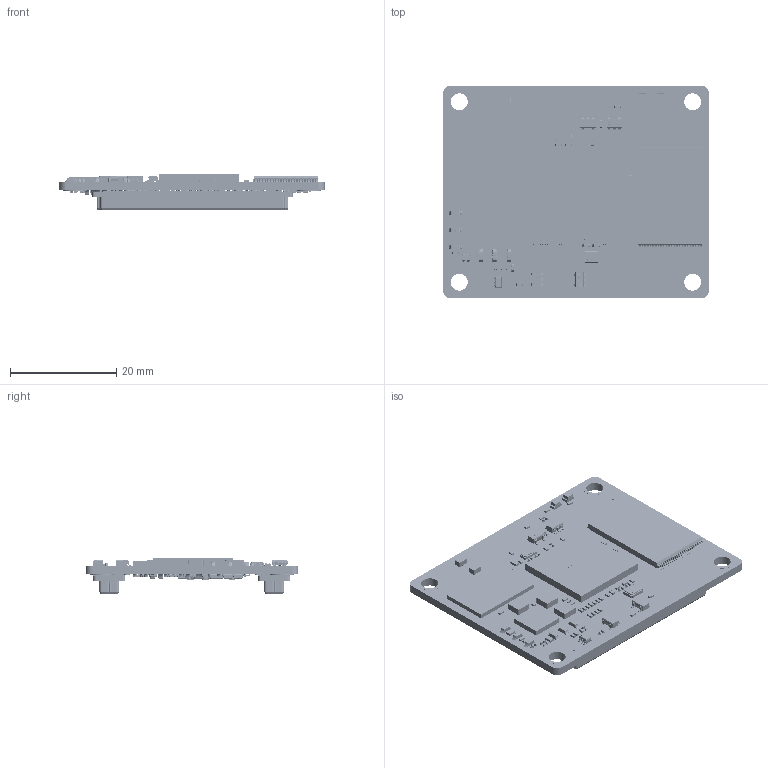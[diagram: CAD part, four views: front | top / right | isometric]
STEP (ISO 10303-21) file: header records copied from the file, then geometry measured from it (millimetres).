
FILE_DESCRIPTION((''),'2;1');
FILE_NAME('MYC-C335X-GW_V12_0920_ASM','2023-10-08T14:36:24',('89233'),(''),'CREO PARAMETRIC BY PTC INC, 2023073','CREO PARAMETRIC BY PTC INC, 2023073','');
FILE_SCHEMA(('AUTOMOTIVE_DESIGN { 1 0 10303 214 1 1 1 1 }'));
Products named in the file (132): MYC-C335X-GW-109805; MYC-C335X-GW-117285_ASM; HOLE3_2; HOLE3_2P_ASM; BGA153-1; BGA153_ASM; PIN1-106950; PIN2-106951; CHIP-106952; FB0805-109808_ASM; FB0805-117288_ASM; R0603-109809; R0603-117289_ASM; L3X3-109810; L3X3-117290_ASM; NONE-106955; PART6_ASSEM3-1-SOLID2; USER_LIBRARY-0603_CAP-1-SOLID1; CUT-EXTRUDE1; WRAP1; C0603-109811_ASM; C0603-117291_ASM; USER_LIBRARY-0402_CAP-1-SOLID3; _1; USER_LIBRARY-0402_CAP-1-SOLID1; NONE-106963; C0402-109812_ASM; C0402-117292_ASM; R0402-109813; R0402-117293_ASM; USER_LIBRARY-96-FBGA__14X9_; FBGA96_ASM; 61082-081402LF-1; CONN-61082-081400LF_ASM; BGA324-109816; BGA324-117296_ASM; TEST0_8SMD; TEST0_8-SMD_ASM; FRAME_12_1; FRAME_12_2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
Assembly tree (379 placements, depth 7):
  MYC-C335X-GW_V12_0920_ASM
    MYC-C335X-GW_V12_0920_1_ASM
      COMPONENTS_ASM
        MYC-C335X-GW-117285_ASM
          MYC-C335X-GW-109805
        HOLE3_2P_ASM  x4
          HOLE3_2
        BGA153_ASM
          BGA153-1
        FB0805-117288_ASM  x5
          FB0805-109808_ASM
            PIN1-106950
            PIN2-106951
            CHIP-106952
        R0603-117289_ASM  x6
          R0603-109809
        L3X3-117290_ASM  x3
          L3X3-109810
        C0603-117291_ASM  x25
          C0603-109811_ASM
            NONE-106955
            PART6_ASSEM3-1-SOLID2
            USER_LIBRARY-0603_CAP-1-SOLID1
            CUT-EXTRUDE1
            WRAP1
        C0402-117292_ASM  x111
          C0402-109812_ASM
            USER_LIBRARY-0402_CAP-1-SOLID3
            _1
            USER_LIBRARY-0402_CAP-1-SOLID1
            NONE-106963
        R0402-117293_ASM  x79
          R0402-109813
        FBGA96_ASM
          USER_LIBRARY-96-FBGA__14X9_
        CONN-61082-081400LF_ASM  x2
          61082-081402LF-1
        BGA324-117296_ASM
          BGA324-109816
        TEST0_8-SMD_ASM  x13
          TEST0_8SMD
        VQFN48-0_4_ASM
          RSL0048B_ASM_18_ASM
            FRAME_12_ASM
              FRAME_12_1
              FRAME_12_2
              FRAME_12_3
              FRAME_12_4
              FRAME_12_5
              FRAME_12_6
              FRAME_12_7
              FRAME_12_8
              FRAME_12_9
              FRAME_12_10
              FRAME_12_11
              FRAME_12_12
              FRAME_12_13
              FRAME_12_14
              FRAME_12_15
              FRAME_12_16
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Bounding box: 50 x 40 x 6.81 mm (x, y, z)
Volume: 4966.3 mm3; surface area: 9296.2 mm2
Topology: 712 solids, 712 shells, 20173 faces, 61968 edges, 47585 vertices
Faces by surface type: plane 10997, cylinder 4186, bspline 2944, sphere 1098, torus 558, extrusion 374, cone 16
Entity records: 226059 total; most frequent: CARTESIAN_POINT 37376, DIRECTION 26895, ORIENTED_EDGE 17604, PRESENTATION_STYLE_ASSIGNMENT 16644, STYLED_ITEM 14560, CURVE_STYLE 14463, VECTOR 9118, LINE 9023
